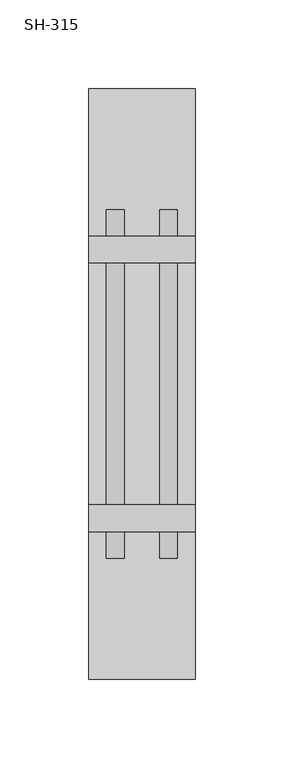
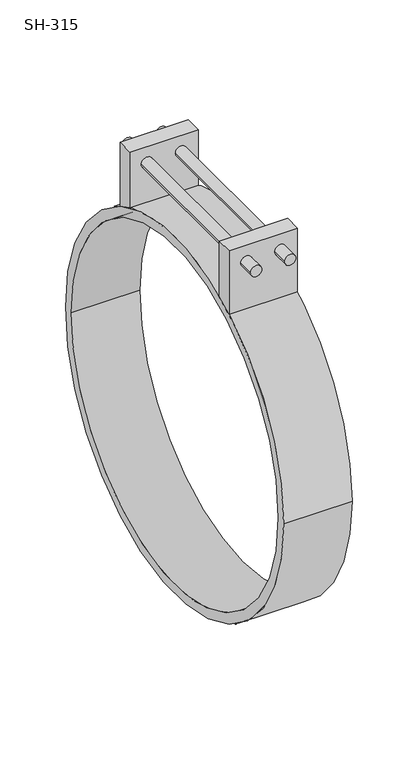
"""IFC4 building model written with IfcOpenShell, lengths in millimetres: duct fitting geometry, СВ_Хомут_Круглый_DN100-315_SH : SH-315."""

from ifc_helpers import new_model, si_unit, point, frame, origin, origin_2d, place, context, project, spatial, polyline, circle_curve, trimmed, segment, composite_curve, outline, extrude, source, transform, mapped, element, save
from ifc_brep_helpers import plane_surface, cylinder_surface, revolved_surface, advanced_brep


def sh_315_680b5ec1(model_context):
    return source(origin(), model_context, "Body", "SolidModel", [
        advanced_brep(
        [(30.0, 83.25, 203.5), (30.0, 68.25, 203.5), (30.0, 68.25, 151.8689814), (30.0, 83.25, 144.1932297), (30.0, -68.25, 203.5), (30.0, -83.25, 203.5), (30.0, -83.25, 144.1932297), (30.0, -68.25, 151.8689814), (-30.0, 68.25, 203.5), (-30.0, 83.25, 203.5), (-30.0, 83.25, 144.1932297), (-30.0, 68.25, 151.8689814), (-30.0, -83.25, 203.5), (-30.0, -68.25, 203.5), (-30.0, -68.25, 151.8689814), (-30.0, -83.25, 144.1932297), (-20.0, 83.25, 188.5), (-10.0, 83.25, 188.5), (10.0, 83.25, 188.5), (20.0, 83.25, 188.5), (-10.0, 68.25, 188.5), (-20.0, 68.25, 188.5), (20.0, 68.25, 188.5), (10.0, 68.25, 188.5), (-20.0, -68.25, 188.5), (-10.0, -68.25, 188.5), (10.0, -68.25, 188.5), (20.0, -68.25, 188.5), (-10.0, -83.25, 188.5), (-20.0, -83.25, 188.5), (20.0, -83.25, 188.5), (10.0, -83.25, 188.5), (-20.0, -98.25, 188.5), (-10.0, -98.25, 188.5), (10.0, -98.25, 188.5), (20.0, -98.25, 188.5), (-20.0, 98.25, 188.5), (-10.0, 98.25, 188.5), (10.0, 98.25, 188.5), (20.0, 98.25, 188.5)],
        [
            (0, 1),
            (1, 2),
            (2, 3, circle_curve(frame((30.0, 0.0, 0.0), z_axis=(-1.0, 0.0, 0.0), x_axis=(0.0, 1.0, 0.0)), 166.5)),
            (3, 0),
            (4, 5),
            (5, 6),
            (6, 7, circle_curve(frame((30.0, 0.0, 0.0), z_axis=(-1.0, 0.0, 0.0), x_axis=(0.0, 1.0, 0.0)), 166.5)),
            (7, 4),
            (8, 9),
            (9, 10),
            (10, 11, circle_curve(frame((-30.0, 0.0, 0.0), z_axis=(1.0, 0.0, 0.0), x_axis=(0.0, 1.0, 0.0)), 166.5)),
            (11, 8),
            (12, 13),
            (13, 14),
            (14, 15, circle_curve(frame((-30.0, 0.0, 0.0), z_axis=(1.0, 0.0, 0.0), x_axis=(0.0, 1.0, 0.0)), 166.5)),
            (15, 12),
            (9, 0),
            (3, 10),
            (16, 17, circle_curve(frame((-15.0, 83.25, 188.5), z_axis=(0.0, -1.0, 0.0), x_axis=(1.0, 0.0, 0.0)), 5.0)),
            (17, 16, circle_curve(frame((-15.0, 83.25, 188.5), z_axis=(0.0, -1.0, 0.0), x_axis=(1.0, 0.0, 0.0)), 5.0)),
            (18, 19, circle_curve(frame((15.0, 83.25, 188.5), z_axis=(0.0, -1.0, 0.0), x_axis=(1.0, 0.0, 0.0)), 5.0)),
            (19, 18, circle_curve(frame((15.0, 83.25, 188.5), z_axis=(0.0, -1.0, 0.0), x_axis=(1.0, 0.0, 0.0)), 5.0)),
            (8, 1),
            (11, 2),
            (20, 21, circle_curve(frame((-15.0, 68.25, 188.5), z_axis=(0.0, 1.0, 0.0), x_axis=(1.0, 0.0, 0.0)), 5.0)),
            (21, 20, circle_curve(frame((-15.0, 68.25, 188.5), z_axis=(0.0, 1.0, 0.0), x_axis=(1.0, 0.0, 0.0)), 5.0)),
            (22, 23, circle_curve(frame((15.0, 68.25, 188.5), z_axis=(0.0, 1.0, 0.0), x_axis=(1.0, 0.0, 0.0)), 5.0)),
            (23, 22, circle_curve(frame((15.0, 68.25, 188.5), z_axis=(0.0, 1.0, 0.0), x_axis=(1.0, 0.0, 0.0)), 5.0)),
            (13, 4),
            (7, 14),
            (24, 25, circle_curve(frame((-15.0, -68.25, 188.5), z_axis=(0.0, -1.0, 0.0), x_axis=(1.0, 0.0, 0.0)), 5.0)),
            (25, 24, circle_curve(frame((-15.0, -68.25, 188.5), z_axis=(0.0, -1.0, 0.0), x_axis=(1.0, 0.0, 0.0)), 5.0)),
            (26, 27, circle_curve(frame((15.0, -68.25, 188.5), z_axis=(0.0, -1.0, 0.0), x_axis=(1.0, 0.0, 0.0)), 5.0)),
            (27, 26, circle_curve(frame((15.0, -68.25, 188.5), z_axis=(0.0, -1.0, 0.0), x_axis=(1.0, 0.0, 0.0)), 5.0)),
            (12, 5),
            (15, 6),
            (28, 29, circle_curve(frame((-15.0, -83.25, 188.5), z_axis=(0.0, 1.0, 0.0), x_axis=(1.0, 0.0, 0.0)), 5.0)),
            (29, 28, circle_curve(frame((-15.0, -83.25, 188.5), z_axis=(0.0, 1.0, 0.0), x_axis=(1.0, 0.0, 0.0)), 5.0)),
            (30, 31, circle_curve(frame((15.0, -83.25, 188.5), z_axis=(0.0, 1.0, 0.0), x_axis=(1.0, 0.0, 0.0)), 5.0)),
            (31, 30, circle_curve(frame((15.0, -83.25, 188.5), z_axis=(0.0, 1.0, 0.0), x_axis=(1.0, 0.0, 0.0)), 5.0)),
            (32, 33, circle_curve(frame((-15.0, -98.25, 188.5), z_axis=(0.0, -1.0, 0.0), x_axis=(1.0, 0.0, 0.0)), 5.0)),
            (33, 32, circle_curve(frame((-15.0, -98.25, 188.5), z_axis=(0.0, -1.0, 0.0), x_axis=(1.0, 0.0, 0.0)), 5.0)),
            (34, 35, circle_curve(frame((15.0, -98.25, 188.5), z_axis=(0.0, -1.0, 0.0), x_axis=(1.0, 0.0, 0.0)), 5.0)),
            (35, 34, circle_curve(frame((15.0, -98.25, 188.5), z_axis=(0.0, -1.0, 0.0), x_axis=(1.0, 0.0, 0.0)), 5.0)),
            (36, 37, circle_curve(frame((-15.0, 98.25, 188.5), z_axis=(0.0, 1.0, 0.0), x_axis=(1.0, 0.0, 0.0)), 5.0)),
            (37, 36, circle_curve(frame((-15.0, 98.25, 188.5), z_axis=(0.0, 1.0, 0.0), x_axis=(1.0, 0.0, 0.0)), 5.0)),
            (38, 39, circle_curve(frame((15.0, 98.25, 188.5), z_axis=(0.0, 1.0, 0.0), x_axis=(1.0, 0.0, 0.0)), 5.0)),
            (39, 38, circle_curve(frame((15.0, 98.25, 188.5), z_axis=(0.0, 1.0, 0.0), x_axis=(1.0, 0.0, 0.0)), 5.0)),
            (32, 29),
            (28, 33),
            (37, 17),
            (16, 36),
            (24, 21),
            (20, 25),
            (34, 31),
            (30, 35),
            (39, 19),
            (18, 38),
            (26, 23),
            (22, 27),
        ],
        [
            plane_surface(frame((30.0, 83.25, 203.5), z_axis=(1.0, 0.0, 0.0), x_axis=(0.0, 0.0, 1.0))),
            plane_surface(frame((-30.0, 83.25, 203.5), z_axis=(-1.0, 0.0, 0.0), x_axis=(0.0, 0.0, -1.0))),
            plane_surface(frame((30.0, 83.25, 0.0), z_axis=(0.0, 1.0, 0.0), x_axis=(-1.0, 0.0, 0.0))),
            plane_surface(frame((30.0, 83.25, 203.5), z_axis=(0.0, 0.0, 1.0), x_axis=(-1.0, 0.0, 0.0))),
            plane_surface(frame((30.0, 68.25, 203.5), z_axis=(0.0, -1.0, 0.0), x_axis=(-1.0, 0.0, 0.0))),
            plane_surface(frame((30.0, -68.25, 0.0), z_axis=(0.0, 1.0, 0.0), x_axis=(-1.0, 0.0, 0.0))),
            plane_surface(frame((30.0, -68.25, 203.5), z_axis=(0.0, 0.0, 1.0), x_axis=(-1.0, 0.0, 0.0))),
            plane_surface(frame((30.0, -83.25, 203.5), z_axis=(0.0, -1.0, 0.0), x_axis=(-1.0, 0.0, 0.0))),
            revolved_surface(polyline([(30.0, 166.5, 0.0), (-30.0, 166.5, 0.0)]), (-30.0, 0.0, 0.0), (1.0, 0.0, 0.0)),
            plane_surface(frame((-10.0, -98.25, 188.5), z_axis=(0.0, -1.0, 0.0), x_axis=(0.0, 0.0, 1.0))),
            plane_surface(frame((-10.0, 98.25, 188.5), z_axis=(0.0, 1.0, 0.0), x_axis=(0.0, 0.0, -1.0))),
            cylinder_surface(frame((-15.0, 98.25, 188.5), z_axis=(0.0, -1.0, 0.0), x_axis=(1.0, 0.0, 0.0)), 5.0),
            cylinder_surface(frame((15.0, 0.0, 188.5), z_axis=(0.0, -1.0, 0.0), x_axis=(1.0, 0.0, 0.0)), 5.0),
        ],
        [
            (0, [[1, 2, 3, 4]]),
            (0, [[5, 6, 7, 8]]),
            (1, [[9, 10, 11, 12]]),
            (1, [[13, 14, 15, 16]]),
            (2, [[17, -4, 18, -10], [19, 20], [21, 22]]),
            (3, [[-1, -17, -9, 23]]),
            (4, [[-23, -12, 24, -2], [25, 26], [27, 28]]),
            (5, [[29, -8, 30, -14], [31, 32], [33, 34]]),
            (6, [[-5, -29, -13, 35]]),
            (7, [[-35, -16, 36, -6], [37, 38], [39, 40]]),
            (8, [[-3, -24, -11, -18]]),
            (8, [[-7, -36, -15, -30]]),
            (9, [[41, 42]]),
            (9, [[43, 44]]),
            (10, [[45, 46]]),
            (10, [[47, 48]]),
            (11, [[-41, 49, -37, 50]]),
            (11, [[-46, 51, -19, 52]]),
            (11, [[53, -25, 54, -31]]),
            (11, [[-42, -50, -38, -49]]),
            (11, [[-45, -52, -20, -51]]),
            (11, [[-53, -32, -54, -26]]),
            (12, [[-43, 55, -39, 56]]),
            (12, [[-48, 57, -21, 58]]),
            (12, [[59, -27, 60, -33]]),
            (12, [[-44, -56, -40, -55]]),
            (12, [[-47, -58, -22, -57]]),
            (12, [[-59, -34, -60, -28]]),
        ],
    ),
        extrude(outline(composite_curve([segment(trimmed(circle_curve(origin_2d(), 166.5), [point((-166.5, 0.0))], [point((166.5, 0.0))], False, "CARTESIAN"), True, "CONTINUOUS"), segment(trimmed(circle_curve(origin_2d(), 166.5), [point((166.5, 0.0))], [point((-166.5, 0.0))], False, "CARTESIAN"), True, "CONTINUOUS")], self_intersect=False), holes=[composite_curve([segment(trimmed(circle_curve(origin_2d(), 157.5), [point((-157.5, 0.0))], [point((157.5, 0.0))], True, "CARTESIAN"), True, "CONTINUOUS"), segment(trimmed(circle_curve(origin_2d(), 157.5), [point((157.5, 0.0))], [point((-157.5, 0.0))], True, "CARTESIAN"), True, "CONTINUOUS")], self_intersect=False)]), frame((-30.0, 0.0, 0.0), z_axis=(1.0, 0.0, 0.0), x_axis=(0.0, 1.0, 0.0)), (0.0, 0.0, 1.0), 60.0),
    ])


if __name__ == "__main__":
    model = new_model("IFC4")
    model_context = context("Model", 3, world=origin())
    ifc_project = project(units=[si_unit("LENGTHUNIT", "METRE", prefix="MILLI")], contexts=[model_context])
    site = spatial("IfcSite", under=ifc_project)
    building = spatial("IfcBuilding", under=site)
    placement = place(None, origin())
    sh_315_shape = sh_315_680b5ec1(model_context)
    element("IfcDuctFitting", 1, ObjectType="СВ_Хомут_Круглый_DN100-315_SH : SH-315", at=placement, inside=building, context=model_context, shape_type="MappedRepresentation", body=[
        mapped(sh_315_shape, transform((0.0, 0.0, 0.0), x_axis=(1.0, 0.0, 0.0), y_axis=(0.0, 1.0, 0.0), z_axis=(0.0, 0.0, 1.0))),
    ])
    save(model, "model.ifc")
